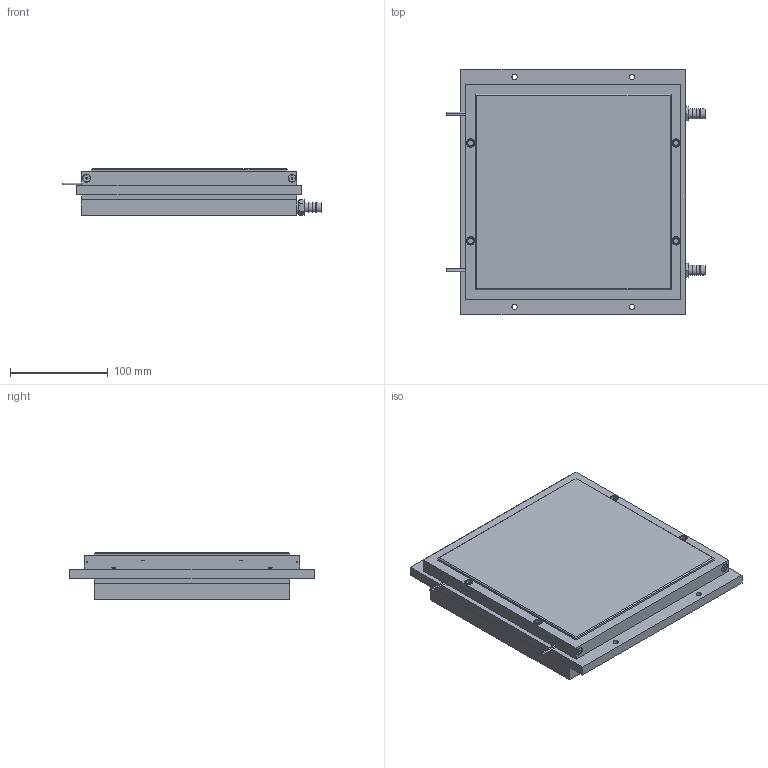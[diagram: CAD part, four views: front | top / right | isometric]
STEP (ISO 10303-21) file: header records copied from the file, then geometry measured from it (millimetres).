
FILE_DESCRIPTION(('STEP AP214'),'1');
FILE_NAME('TKG-8010-100.stp','2026-03-16T23:40:04',(' '),(' '),'Spatial InterOp 3D',' ',' ');
FILE_SCHEMA(('AUTOMOTIVE_DESIGN { 1 0 10303 214 1 1 1 1 }'));
Length unit declared in the file: metre
Products named in the file (13): TKG-8010-100; 水路板; 水路板蓋; ユニットベース; 樹脂枠; 皿ネジ; 冷却板; 六角ネジ; ばね座金; リード線1; リード線2; ホースニップル; 製造番号シール
Assembly tree (12 placements, depth 2):
  TKG-8010-100
    水路板
    水路板蓋
    ユニットベース
    樹脂枠
    皿ネジ
    冷却板
    六角ネジ
    ばね座金
    リード線1
    リード線2
    ホースニップル
    製造番号シール
Bounding box: 265.5 x 250 x 48 mm (x, y, z)
Volume: 2295633.6 mm3; surface area: 521709.6 mm2
Topology: 34 solids, 38 shells, 440 faces, 941 edges, 620 vertices
Faces by surface type: plane 305, cylinder 86, cone 32, torus 17
Full cylindrical faces by diameter (mm): 1 x9, 1.5 x4, 3 x4, 5.5 x4, 6 x2, 7 x9, 8 x13, 8.5 x4, 13 x4
Entity records: 15247 total; most frequent: CARTESIAN_POINT 1978, DIRECTION 1937, ORIENTED_EDGE 1670, EDGE_CURVE 835, AXIS2_PLACEMENT_3D 694, VERTEX_POINT 591, EDGE_LOOP 588, LINE 549
